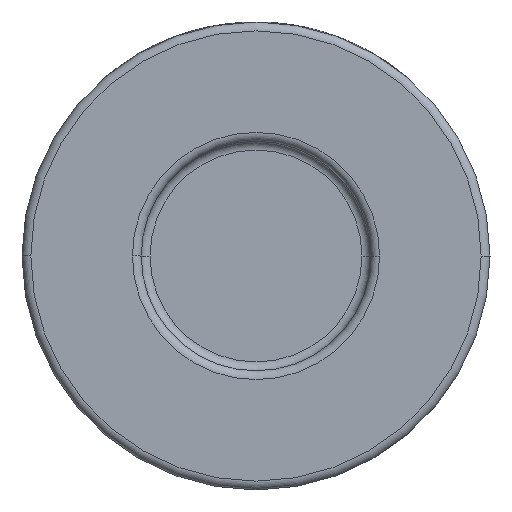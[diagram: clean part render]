
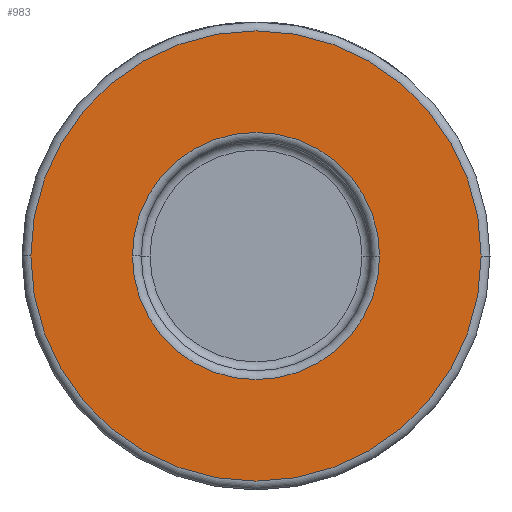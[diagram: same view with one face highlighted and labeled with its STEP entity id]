
A CAD part, front view. The second image highlights one B-rep face of the part: STEP entity #983.
In plain terms, the highlighted planar face has unit normal (0, -1, 0).
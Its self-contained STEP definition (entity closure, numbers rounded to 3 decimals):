
#41 = EDGE_LOOP ( 'NONE', ( #2747, #3734 ) ) ;
#96 = CARTESIAN_POINT ( 'NONE',  ( 14., -19., 0. ) ) ;
#213 = CARTESIAN_POINT ( 'NONE',  ( 26.5, -19., 0. ) ) ;
#244 = EDGE_CURVE ( 'NONE', #4473, #1680, #2153, .T. ) ;
#275 = CIRCLE ( 'NONE', #3273, 25.5 ) ;
#541 = VERTEX_POINT ( 'NONE', #96 ) ;
#792 = ORIENTED_EDGE ( 'NONE', *, *, #3041, .T. ) ;
#920 = FACE_OUTER_BOUND ( 'NONE', #41, .T. ) ;
#926 = CARTESIAN_POINT ( 'NONE',  ( 0., -19., 0. ) ) ;
#964 = FACE_BOUND ( 'NONE', #1314, .T. ) ;
#983 = ADVANCED_FACE ( 'NONE', ( #964, #920 ), #3347, .T. ) ;
#994 = AXIS2_PLACEMENT_3D ( 'NONE', #213, #4022, #3416 ) ;
#1002 = EDGE_CURVE ( 'NONE', #2955, #541, #4149, .T. ) ;
#1272 = CARTESIAN_POINT ( 'NONE',  ( 0., -19., 0. ) ) ;
#1282 = CARTESIAN_POINT ( 'NONE',  ( 0., -19., 0. ) ) ;
#1314 = EDGE_LOOP ( 'NONE', ( #792, #2214 ) ) ;
#1510 = AXIS2_PLACEMENT_3D ( 'NONE', #4407, #4130, #2337 ) ;
#1670 = DIRECTION ( 'NONE',  ( 1., 0., 0. ) ) ;
#1680 = VERTEX_POINT ( 'NONE', #3649 ) ;
#2045 = CARTESIAN_POINT ( 'NONE',  ( 25.5, -19., 0. ) ) ;
#2153 = CIRCLE ( 'NONE', #3251, 25.5 ) ;
#2160 = AXIS2_PLACEMENT_3D ( 'NONE', #1282, #3071, #1670 ) ;
#2214 = ORIENTED_EDGE ( 'NONE', *, *, #1002, .T. ) ;
#2316 = CIRCLE ( 'NONE', #1510, 14. ) ;
#2322 = DIRECTION ( 'NONE',  ( 1., 0., 0. ) ) ;
#2337 = DIRECTION ( 'NONE',  ( 1., 0., 0. ) ) ;
#2664 = DIRECTION ( 'NONE',  ( 0., -1., 0. ) ) ;
#2747 = ORIENTED_EDGE ( 'NONE', *, *, #244, .T. ) ;
#2955 = VERTEX_POINT ( 'NONE', #3602 ) ;
#3041 = EDGE_CURVE ( 'NONE', #541, #2955, #2316, .T. ) ;
#3071 = DIRECTION ( 'NONE',  ( 0., 1., 0. ) ) ;
#3217 = DIRECTION ( 'NONE',  ( 1., 0., 0. ) ) ;
#3231 = EDGE_CURVE ( 'NONE', #1680, #4473, #275, .T. ) ;
#3251 = AXIS2_PLACEMENT_3D ( 'NONE', #926, #2664, #2322 ) ;
#3273 = AXIS2_PLACEMENT_3D ( 'NONE', #1272, #3895, #3217 ) ;
#3347 = PLANE ( 'NONE',  #994 ) ;
#3416 = DIRECTION ( 'NONE',  ( 1., 0., 0. ) ) ;
#3602 = CARTESIAN_POINT ( 'NONE',  ( -14., -19., 0. ) ) ;
#3649 = CARTESIAN_POINT ( 'NONE',  ( -25.5, -19., 0. ) ) ;
#3734 = ORIENTED_EDGE ( 'NONE', *, *, #3231, .T. ) ;
#3895 = DIRECTION ( 'NONE',  ( 0., -1., 0. ) ) ;
#4022 = DIRECTION ( 'NONE',  ( 0., -1., 0. ) ) ;
#4130 = DIRECTION ( 'NONE',  ( 0., 1., 0. ) ) ;
#4149 = CIRCLE ( 'NONE', #2160, 14. ) ;
#4407 = CARTESIAN_POINT ( 'NONE',  ( 0., -19., 0. ) ) ;
#4473 = VERTEX_POINT ( 'NONE', #2045 ) ;
